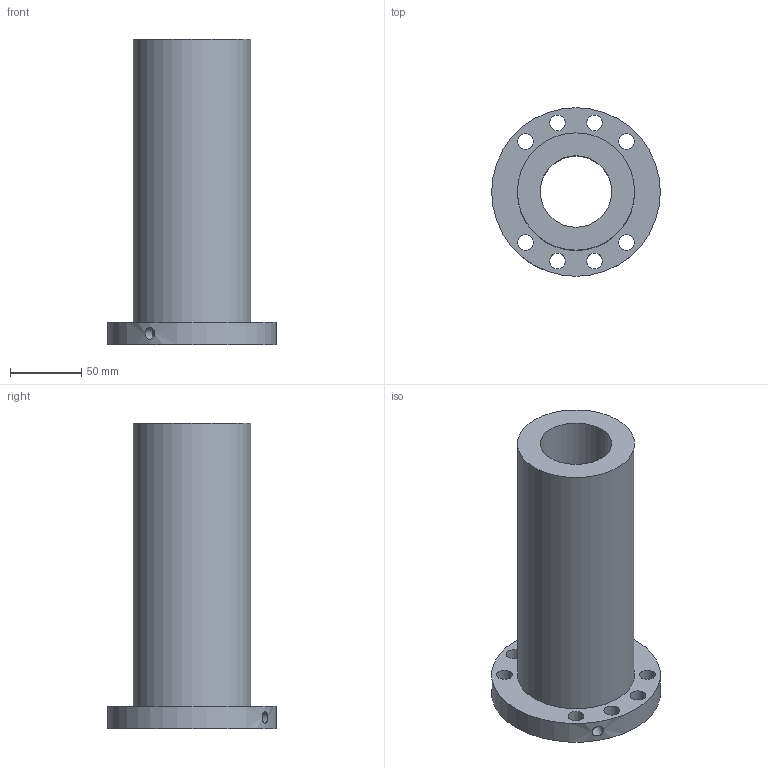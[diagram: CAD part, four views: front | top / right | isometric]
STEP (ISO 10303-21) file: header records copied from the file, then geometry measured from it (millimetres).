
FILE_DESCRIPTION(/* description */ (''),/* implementation_level */ '2;1');
FILE_NAME(/* name */ '50-15K5_635',/* time_stamp */ '2007-10-15T12:53:55+08:00',/* author */ (''),/* organization */ (''),/* preprocessor_version */ 'ST-DEVELOPER v11',/* originating_system */ 'UGS - NX 5.0',/* authorisation */ '');
FILE_SCHEMA (('CONFIG_CONTROL_DESIGN'));
Length unit declared in the file: millimetre
Products named in the file (1): 50-15K5_635
Bounding box: 118 x 118 x 214 mm (x, y, z)
Volume: 787083.1 mm3; surface area: 112048 mm2
Topology: 1 solids, 1 shells, 17 faces, 40 edges, 27 vertices
Faces by surface type: cylinder 13, plane 4
Full cylindrical faces by diameter (mm): 6 x1, 8 x1, 11 x8, 50 x1, 82 x1, 118 x1
Entity records: 668 total; most frequent: CARTESIAN_POINT 184, DIRECTION 84, FACE_BOUND 52, EDGE_LOOP 52, ORIENTED_EDGE 52, AXIS2_PLACEMENT_3D 42, VERTEX_POINT 26, EDGE_CURVE 26
